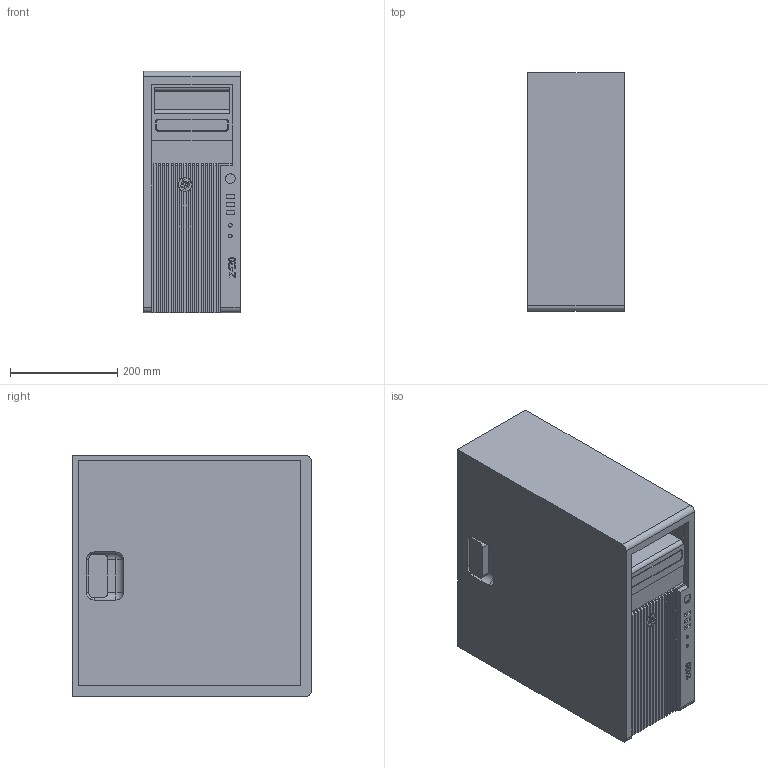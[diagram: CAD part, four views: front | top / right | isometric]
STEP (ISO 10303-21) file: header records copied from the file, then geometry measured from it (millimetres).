
FILE_DESCRIPTION(/* description */ ('デスクタワー（hp）'),/* implementation_level */ '2;1');
FILE_NAME(/* name */ 'C:\Users\Fujimoto-s\OneDrive\Inventor\WorkSpace\\X2\305D306E4ED6\X0\\ホームページ用\\X2\30C030A630F330ED30FC30C97D206750\X0\\ＰＣ関係\\X2\30A230C330D730ED30FC30C97528\X0\\Ｚ４２０\Ｚ４２０.stp',/* time_stamp */ '2024-08-13T17:04:27+09:00',/* author */ ('Fujimoto-s'),/* organization */ (''),/* preprocessor_version */ 'ST-DEVELOPER v15.2',/* originating_system */ 'Autodesk Inventor 2014',/* authorisation */ '');
FILE_SCHEMA (('AUTOMOTIVE_DESIGN { 1 0 10303 214 3 1 1 }'));
Length unit declared in the file: millimetre
Products named in the file (1): Ｚ４２０
Bounding box: 180 x 445 x 450 mm (x, y, z)
Volume: 34925589.5 mm3; surface area: 799699.2 mm2
Topology: 1 solids, 1 shells, 268 faces, 726 edges, 483 vertices
Faces by surface type: plane 207, cylinder 34, bspline 23, sphere 4
Full cylindrical faces by diameter (mm): 7 x2, 18 x1, 25 x1
Entity records: 8559 total; most frequent: CARTESIAN_POINT 1807, ORIENTED_EDGE 1442, DIRECTION 1240, EDGE_CURVE 721, LINE 594, VECTOR 594, VERTEX_POINT 482, AXIS2_PLACEMENT_3D 323
